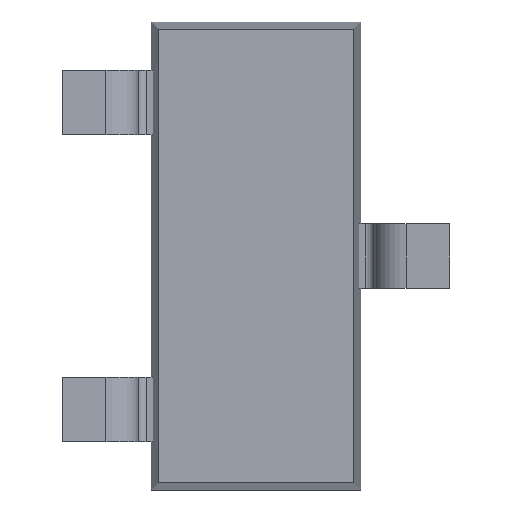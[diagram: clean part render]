
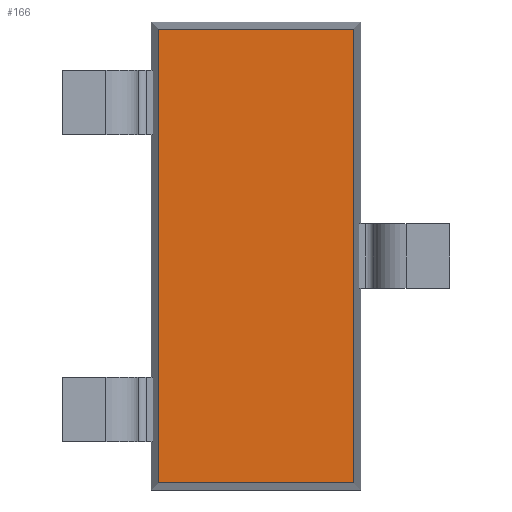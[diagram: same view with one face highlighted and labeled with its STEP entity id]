
A CAD part, front view. The second image highlights one B-rep face of the part: STEP entity #166.
In plain terms, the highlighted planar face has unit normal (0, -1, 0).
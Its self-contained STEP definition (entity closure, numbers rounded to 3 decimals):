
#15 = LINE ( 'NONE', #380, #993 ) ;
#88 = FACE_OUTER_BOUND ( 'NONE', #897, .T. ) ;
#114 = LINE ( 'NONE', #610, #320 ) ;
#166 = ADVANCED_FACE ( 'NONE', ( #88 ), #978, .T. ) ;
#170 = CARTESIAN_POINT ( 'NONE',  ( -0.606, 0.1, -1.406 ) ) ;
#197 = LINE ( 'NONE', #448, #506 ) ;
#200 = VERTEX_POINT ( 'NONE', #1092 ) ;
#320 = VECTOR ( 'NONE', #593, 1000. ) ;
#376 = ORIENTED_EDGE ( 'NONE', *, *, #1132, .T. ) ;
#380 = CARTESIAN_POINT ( 'NONE',  ( 0.65, 0.1, -1.406 ) ) ;
#390 = ORIENTED_EDGE ( 'NONE', *, *, #1381, .T. ) ;
#417 = LINE ( 'NONE', #914, #1453 ) ;
#448 = CARTESIAN_POINT ( 'NONE',  ( -0.606, 0.1, -1.45 ) ) ;
#506 = VECTOR ( 'NONE', #815, 1000. ) ;
#532 = EDGE_CURVE ( 'NONE', #1000, #736, #15, .T. ) ;
#593 = DIRECTION ( 'NONE',  ( 0., 0., 1. ) ) ;
#610 = CARTESIAN_POINT ( 'NONE',  ( 0.606, 0.1, 1.45 ) ) ;
#736 = VERTEX_POINT ( 'NONE', #1096 ) ;
#815 = DIRECTION ( 'NONE',  ( 0., 0., -1. ) ) ;
#897 = EDGE_LOOP ( 'NONE', ( #1327, #1025, #376, #390 ) ) ;
#914 = CARTESIAN_POINT ( 'NONE',  ( -0.65, 0.1, 1.406 ) ) ;
#957 = DIRECTION ( 'NONE',  ( 0., 0., -1. ) ) ;
#978 = PLANE ( 'NONE',  #1223 ) ;
#984 = CARTESIAN_POINT ( 'NONE',  ( 0., 0.1, 0. ) ) ;
#993 = VECTOR ( 'NONE', #1251, 1000. ) ;
#994 = EDGE_CURVE ( 'NONE', #200, #1000, #197, .T. ) ;
#1000 = VERTEX_POINT ( 'NONE', #170 ) ;
#1025 = ORIENTED_EDGE ( 'NONE', *, *, #532, .T. ) ;
#1092 = CARTESIAN_POINT ( 'NONE',  ( -0.606, 0.1, 1.406 ) ) ;
#1096 = CARTESIAN_POINT ( 'NONE',  ( 0.606, 0.1, -1.406 ) ) ;
#1132 = EDGE_CURVE ( 'NONE', #736, #1553, #114, .T. ) ;
#1223 = AXIS2_PLACEMENT_3D ( 'NONE', #984, #1475, #957 ) ;
#1225 = CARTESIAN_POINT ( 'NONE',  ( 0.606, 0.1, 1.406 ) ) ;
#1251 = DIRECTION ( 'NONE',  ( 1., 0., 0. ) ) ;
#1327 = ORIENTED_EDGE ( 'NONE', *, *, #994, .T. ) ;
#1381 = EDGE_CURVE ( 'NONE', #1553, #200, #417, .T. ) ;
#1413 = DIRECTION ( 'NONE',  ( -1., 0., 0. ) ) ;
#1453 = VECTOR ( 'NONE', #1413, 1000. ) ;
#1475 = DIRECTION ( 'NONE',  ( 0., -1., 0. ) ) ;
#1553 = VERTEX_POINT ( 'NONE', #1225 ) ;
